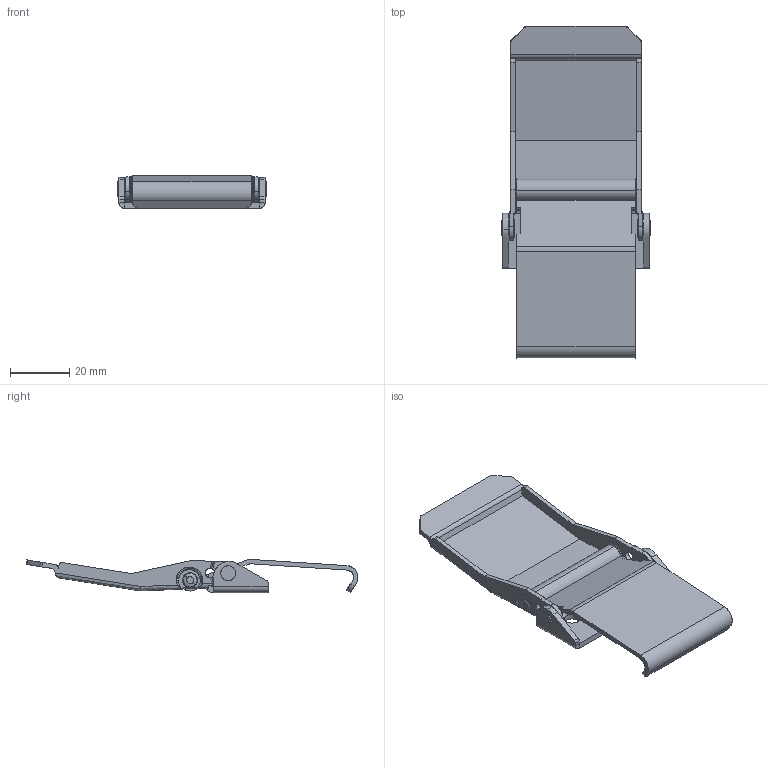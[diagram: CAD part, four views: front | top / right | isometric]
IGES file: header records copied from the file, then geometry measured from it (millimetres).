
Start section: SolidWorks IGES FILE using analytic representation for surfaces
Global section: file name: C:\Documents and Settings\lecoutey\Bureau\GE 1040\GE 40 ZB.IGS; native system: SolidWorks 2004 by SolidWorks Corporation; preprocessor: Version 5.3; author: lecoutey; date: 050330.085441; units: millimetre
Bounding box: 50.4 x 111.77 x 11.17 mm (x, y, z)
Surface area: 16899.2 mm2 (no closed solid volume)
Topology: 0 solids, 0 shells, 227 faces, 3218 edges, 3218 vertices
Faces by surface type: bspline 149, revolution 78
